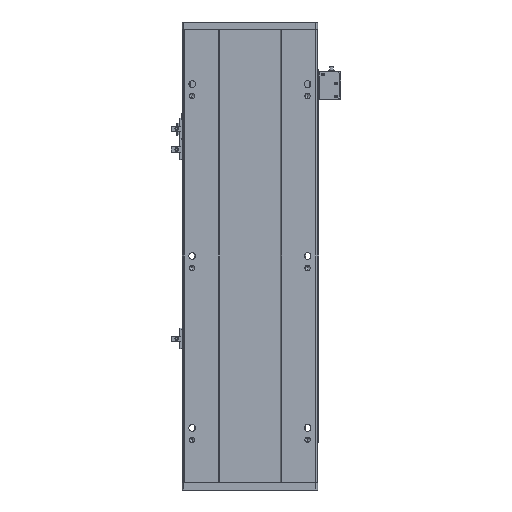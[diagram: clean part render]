
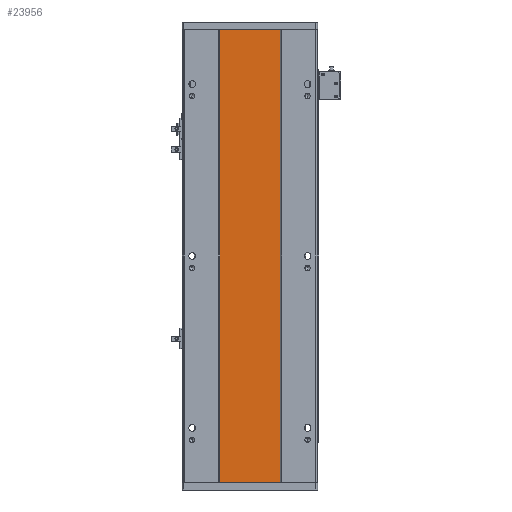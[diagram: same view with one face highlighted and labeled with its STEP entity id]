
A CAD part, front view. The second image highlights one B-rep face of the part: STEP entity #23956.
In plain terms, the highlighted planar face has unit normal (0, -1, 0).
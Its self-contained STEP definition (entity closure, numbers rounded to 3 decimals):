
#618 = CARTESIAN_POINT ( 'NONE',  ( 205.288, 16.9, 568. ) ) ;
#794 = DIRECTION ( 'NONE',  ( 0., 1., 0. ) ) ;
#1200 = DIRECTION ( 'NONE',  ( 0., 0., -1. ) ) ;
#4819 = CARTESIAN_POINT ( 'NONE',  ( 129.288, 16.9, 568. ) ) ;
#5774 = LINE ( 'NONE', #17154, #18921 ) ;
#8077 = DIRECTION ( 'NONE',  ( 1., 0., 0. ) ) ;
#8466 = ORIENTED_EDGE ( 'NONE', *, *, #19191, .F. ) ;
#8835 = CARTESIAN_POINT ( 'NONE',  ( 205.288, 16.9, 0. ) ) ;
#9832 = ORIENTED_EDGE ( 'NONE', *, *, #19232, .T. ) ;
#10351 = EDGE_CURVE ( 'NONE', #16781, #26994, #5774, .T. ) ;
#12315 = CARTESIAN_POINT ( 'NONE',  ( 205.288, 16.9, 568. ) ) ;
#13659 = CARTESIAN_POINT ( 'NONE',  ( 129.288, 16.9, 0. ) ) ;
#14990 = VERTEX_POINT ( 'NONE', #16714 ) ;
#15162 = LINE ( 'NONE', #4819, #25750 ) ;
#15828 = VECTOR ( 'NONE', #21577, 1000. ) ;
#15964 = ORIENTED_EDGE ( 'NONE', *, *, #10351, .F. ) ;
#16714 = CARTESIAN_POINT ( 'NONE',  ( 129.288, 16.9, 568. ) ) ;
#16781 = VERTEX_POINT ( 'NONE', #12315 ) ;
#17154 = CARTESIAN_POINT ( 'NONE',  ( 205.288, 16.9, 568. ) ) ;
#18869 = CARTESIAN_POINT ( 'NONE',  ( 205.288, 16.9, 0. ) ) ;
#18921 = VECTOR ( 'NONE', #1200, 1000. ) ;
#19191 = EDGE_CURVE ( 'NONE', #14990, #16781, #25435, .T. ) ;
#19232 = EDGE_CURVE ( 'NONE', #14990, #26661, #15162, .T. ) ;
#19470 = EDGE_CURVE ( 'NONE', #26661, #26994, #26060, .T. ) ;
#19537 = DIRECTION ( 'NONE',  ( 0., 0., -1. ) ) ;
#19583 = DIRECTION ( 'NONE',  ( -1., 0., 0. ) ) ;
#21577 = DIRECTION ( 'NONE',  ( 1., 0., 0. ) ) ;
#21667 = CARTESIAN_POINT ( 'NONE',  ( 129.288, 16.9, 568. ) ) ;
#23419 = VECTOR ( 'NONE', #8077, 1000. ) ;
#23480 = ORIENTED_EDGE ( 'NONE', *, *, #19470, .T. ) ;
#23956 = ADVANCED_FACE ( 'NONE', ( #26866 ), #26149, .F. ) ;
#25435 = LINE ( 'NONE', #21667, #15828 ) ;
#25750 = VECTOR ( 'NONE', #19537, 1000. ) ;
#26060 = LINE ( 'NONE', #18869, #23419 ) ;
#26149 = PLANE ( 'NONE',  #26626 ) ;
#26626 = AXIS2_PLACEMENT_3D ( 'NONE', #618, #794, #19583 ) ;
#26661 = VERTEX_POINT ( 'NONE', #13659 ) ;
#26866 = FACE_OUTER_BOUND ( 'NONE', #27352, .T. ) ;
#26994 = VERTEX_POINT ( 'NONE', #8835 ) ;
#27352 = EDGE_LOOP ( 'NONE', ( #23480, #15964, #8466, #9832 ) ) ;
